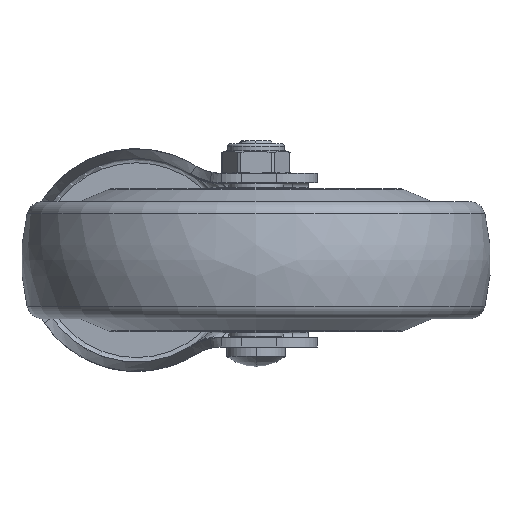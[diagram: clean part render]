
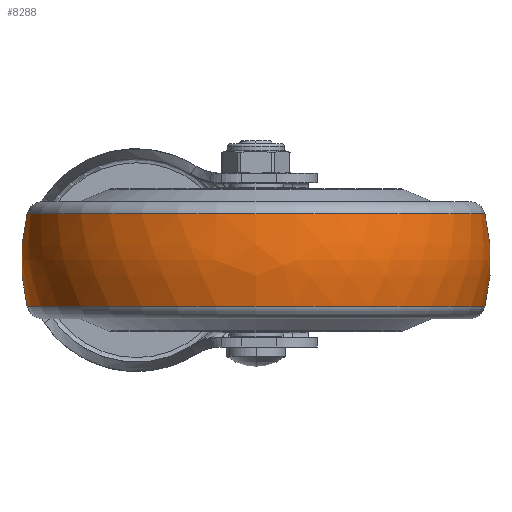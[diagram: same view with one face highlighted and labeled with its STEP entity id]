
A CAD part, front view. The second image highlights one B-rep face of the part: STEP entity #8288.
In plain terms, the highlighted free-form (B-spline) face has degree [3, 3] with [7, 4] control points.
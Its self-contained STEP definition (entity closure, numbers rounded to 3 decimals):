
#7790=CARTESIAN_POINT('',(0.,10.,0.));
#7791=DIRECTION('',(0.,0.,1.));
#7792=DIRECTION('',(0.247,0.969,0.));
#7793=AXIS2_PLACEMENT_3D('',#7790,#7791,#7792);
#7795=CARTESIAN_POINT('',(0.,-10.,0.));
#7796=DIRECTION('',(0.,0.,-1.));
#7797=DIRECTION('',(0.247,-0.969,0.));
#7798=AXIS2_PLACEMENT_3D('',#7795,#7796,#7797);
#7800=CARTESIAN_POINT('',(9.863,0.,0.));
#7801=DIRECTION('',(-1.,0.,0.));
#7802=DIRECTION('',(0.,1.,0.));
#7803=AXIS2_PLACEMENT_3D('',#7800,#7801,#7802);
#7825=CARTESIAN_POINT('',(-9.863,0.,0.));
#7826=DIRECTION('',(-1.,0.,0.));
#7827=DIRECTION('',(0.,1.,0.));
#7828=AXIS2_PLACEMENT_3D('',#7825,#7826,#7827);
#7979=CARTESIAN_POINT('',(9.863,48.765,0.));
#7981=VERTEX_POINT('',#7979);
#7982=CARTESIAN_POINT('',(-9.863,48.765,0.));
#7983=VERTEX_POINT('',#7982);
#8019=CARTESIAN_POINT('',(9.863,-48.765,
0.));
#8021=VERTEX_POINT('',#8019);
#8022=CARTESIAN_POINT('',(-9.863,-48.765,
0.));
#8023=VERTEX_POINT('',#8022);
#8250=CARTESIAN_POINT('',(-10.249,-48.569,
3.056));
#8251=CARTESIAN_POINT('',(-3.494,-50.356,
3.168));
#8252=CARTESIAN_POINT('',(3.494,-50.356,3.168));
#8253=CARTESIAN_POINT('',(10.249,-48.569,3.056));
#8254=CARTESIAN_POINT('',(-10.249,-50.449,
-26.833));
#8255=CARTESIAN_POINT('',(-3.494,-52.305,
-27.821));
#8256=CARTESIAN_POINT('',(3.494,-52.305,
-27.821));
#8257=CARTESIAN_POINT('',(10.249,-50.449,
-26.833));
#8258=CARTESIAN_POINT('',(-10.249,-29.948,
-48.665));
#8259=CARTESIAN_POINT('',(-3.494,-31.05,
-50.455));
#8260=CARTESIAN_POINT('',(3.494,-31.05,
-50.455));
#8261=CARTESIAN_POINT('',(10.249,-29.948,
-48.665));
#8262=CARTESIAN_POINT('',(-10.249,0.,
-48.665));
#8263=CARTESIAN_POINT('',(-3.494,0.,
-50.455));
#8264=CARTESIAN_POINT('',(3.494,0.,
-50.455));
#8265=CARTESIAN_POINT('',(10.249,0.,
-48.665));
#8266=CARTESIAN_POINT('',(-10.249,29.948,
-48.665));
#8267=CARTESIAN_POINT('',(-3.494,31.05,
-50.455));
#8268=CARTESIAN_POINT('',(3.494,31.05,-50.455));
#8269=CARTESIAN_POINT('',(10.249,29.948,-48.665));
#8270=CARTESIAN_POINT('',(-10.249,50.449,
-26.833));
#8271=CARTESIAN_POINT('',(-3.494,52.305,
-27.821));
#8272=CARTESIAN_POINT('',(3.494,52.305,-27.821));
#8273=CARTESIAN_POINT('',(10.249,50.449,-26.833));
#8274=CARTESIAN_POINT('',(-10.249,48.569,3.056));
#8275=CARTESIAN_POINT('',(-3.494,50.356,3.168));
#8276=CARTESIAN_POINT('',(3.494,50.356,3.168));
#8277=CARTESIAN_POINT('',(10.249,48.569,3.056));
#8278=(BOUNDED_SURFACE()B_SPLINE_SURFACE(3,3,((#8250,#8251,#8252,#8253),(#8254,
#8255,#8256,#8257),(#8258,#8259,#8260,#8261),(#8262,#8263,#8264,#8265),(#8266,
#8267,#8268,#8269),(#8270,#8271,#8272,#8273),(#8274,#8275,#8276,#8277)),
.UNSPECIFIED.,.F.,.F.,.F.)B_SPLINE_SURFACE_WITH_KNOTS((4,3,4),(4,4),(0.,1.,
2.),(0.,1.),.UNSPECIFIED.)GEOMETRIC_REPRESENTATION_ITEM()RATIONAL_B_SPLINE_SURFACE(((1.207,1.181,1.181,1.207),(
0.953,0.932,0.932,0.953),(
0.953,0.932,0.932,0.953),(
1.207,1.181,1.181,1.207),(
0.953,0.932,0.932,0.953),(
0.953,0.932,0.932,0.953),(
1.207,1.181,1.181,1.207)))REPRESENTATION_ITEM('')SURFACE());
#8280=ORIENTED_EDGE('',*,*,#8279,.T.);
#8282=ORIENTED_EDGE('',*,*,#8281,.T.);
#8284=ORIENTED_EDGE('',*,*,#8283,.F.);
#8285=ORIENTED_EDGE('',*,*,#8243,.F.);
#8286=EDGE_LOOP('',(#8280,#8282,#8284,#8285));
#8287=FACE_OUTER_BOUND('',#8286,.F.);
#7794=CIRCLE('',#7793,40.);
#7799=CIRCLE('',#7798,40.);
#7804=CIRCLE('',#7803,48.765);
#7829=CIRCLE('',#7828,48.765);
#8243=EDGE_CURVE('',#7981,#8021,#7804,.T.);
#8279=EDGE_CURVE('',#7981,#7983,#7794,.T.);
#8281=EDGE_CURVE('',#7983,#8023,#7829,.T.);
#8283=EDGE_CURVE('',#8021,#8023,#7799,.T.);
#8288=ADVANCED_FACE('',(#8287),#8278,.T.);
